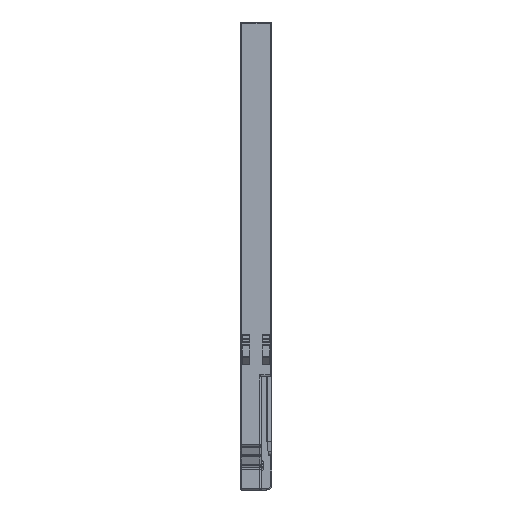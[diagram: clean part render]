
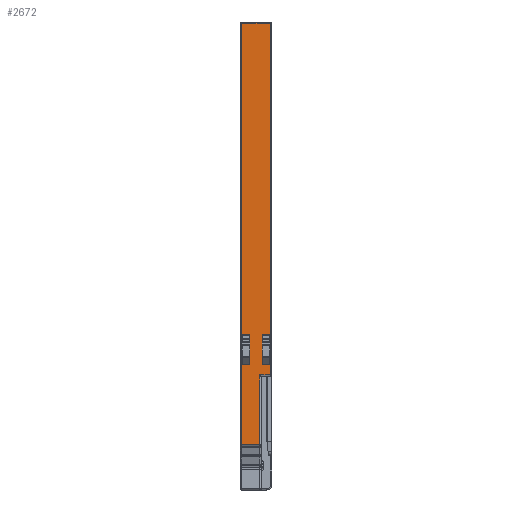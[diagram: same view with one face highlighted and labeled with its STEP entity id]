
A CAD part, left-side view. The second image highlights one B-rep face of the part: STEP entity #2672.
In plain terms, the highlighted planar face has unit normal (-1, 0, 0).
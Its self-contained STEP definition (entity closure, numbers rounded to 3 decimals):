
#26 = VERTEX_POINT ( 'NONE', #1603 ) ;
#84 = VECTOR ( 'NONE', #3972, 1000. ) ;
#150 = ORIENTED_EDGE ( 'NONE', *, *, #10826, .F. ) ;
#355 = LINE ( 'NONE', #8765, #7757 ) ;
#501 = EDGE_CURVE ( 'NONE', #3998, #3356, #1024, .T. ) ;
#669 = DIRECTION ( 'NONE',  ( 0., 0., -1. ) ) ;
#715 = ORIENTED_EDGE ( 'NONE', *, *, #10643, .F. ) ;
#859 = LINE ( 'NONE', #1694, #6410 ) ;
#1024 = LINE ( 'NONE', #2959, #2056 ) ;
#1188 = DIRECTION ( 'NONE',  ( 0., 0., 1. ) ) ;
#1283 = FACE_BOUND ( 'NONE', #9458, .T. ) ;
#1285 = DIRECTION ( 'NONE',  ( 0., 1., 0. ) ) ;
#1389 = DIRECTION ( 'NONE',  ( 0., 0., 1. ) ) ;
#1532 = CARTESIAN_POINT ( 'NONE',  ( -52.5, 4., -51.2 ) ) ;
#1540 = LINE ( 'NONE', #4907, #3958 ) ;
#1603 = CARTESIAN_POINT ( 'NONE',  ( -52.5, 0.3, -51.2 ) ) ;
#1619 = VECTOR ( 'NONE', #9131, 1000. ) ;
#1694 = CARTESIAN_POINT ( 'NONE',  ( -52.5, 4., 35.2 ) ) ;
#1701 = AXIS2_PLACEMENT_3D ( 'NONE', #9846, #10450, #1389 ) ;
#1816 = EDGE_CURVE ( 'NONE', #26, #3810, #5427, .T. ) ;
#2056 = VECTOR ( 'NONE', #7887, 1000. ) ;
#2118 = CARTESIAN_POINT ( 'NONE',  ( -52.5, -0.25, -28.7 ) ) ;
#2379 = CARTESIAN_POINT ( 'NONE',  ( -52.5, -0.25, -34.7 ) ) ;
#2394 = VECTOR ( 'NONE', #5122, 1000. ) ;
#2431 = VERTEX_POINT ( 'NONE', #5152 ) ;
#2447 = ORIENTED_EDGE ( 'NONE', *, *, #8969, .F. ) ;
#2449 = CARTESIAN_POINT ( 'NONE',  ( -52.5, -0.25, -34.7 ) ) ;
#2672 = ADVANCED_FACE ( 'NONE', ( #1283, #2998, #8147 ), #4665, .T. ) ;
#2684 = VERTEX_POINT ( 'NONE', #2118 ) ;
#2845 = VECTOR ( 'NONE', #7028, 1000. ) ;
#2959 = CARTESIAN_POINT ( 'NONE',  ( -52.5, 2.35, -28.7 ) ) ;
#2998 = FACE_BOUND ( 'NONE', #5566, .T. ) ;
#3197 = CARTESIAN_POINT ( 'NONE',  ( -52.5, -1.75, -34.7 ) ) ;
#3284 = VERTEX_POINT ( 'NONE', #10116 ) ;
#3301 = DIRECTION ( 'NONE',  ( 0., 0., 1. ) ) ;
#3329 = ORIENTED_EDGE ( 'NONE', *, *, #8893, .F. ) ;
#3356 = VERTEX_POINT ( 'NONE', #6280 ) ;
#3460 = ORIENTED_EDGE ( 'NONE', *, *, #501, .F. ) ;
#3478 = ORIENTED_EDGE ( 'NONE', *, *, #9870, .F. ) ;
#3529 = ORIENTED_EDGE ( 'NONE', *, *, #10340, .T. ) ;
#3539 = EDGE_CURVE ( 'NONE', #2431, #3356, #1540, .T. ) ;
#3810 = VERTEX_POINT ( 'NONE', #6512 ) ;
#3945 = VECTOR ( 'NONE', #5716, 1000. ) ;
#3958 = VECTOR ( 'NONE', #7471, 1000. ) ;
#3972 = DIRECTION ( 'NONE',  ( 0., 1., 0. ) ) ;
#3991 = LINE ( 'NONE', #6613, #5534 ) ;
#3998 = VERTEX_POINT ( 'NONE', #8640 ) ;
#4011 = VECTOR ( 'NONE', #1188, 1000. ) ;
#4287 = VERTEX_POINT ( 'NONE', #3197 ) ;
#4661 = ORIENTED_EDGE ( 'NONE', *, *, #5448, .T. ) ;
#4665 = PLANE ( 'NONE',  #1701 ) ;
#4760 = EDGE_CURVE ( 'NONE', #6317, #3998, #10519, .T. ) ;
#4823 = VECTOR ( 'NONE', #7939, 1000. ) ;
#4887 = VERTEX_POINT ( 'NONE', #9815 ) ;
#4907 = CARTESIAN_POINT ( 'NONE',  ( -52.5, 3.85, -34.7 ) ) ;
#5098 = CARTESIAN_POINT ( 'NONE',  ( -52.5, -1.75, -28.7 ) ) ;
#5122 = DIRECTION ( 'NONE',  ( 0., 1., 0. ) ) ;
#5152 = CARTESIAN_POINT ( 'NONE',  ( -52.5, 3.85, -34.7 ) ) ;
#5175 = EDGE_CURVE ( 'NONE', #4287, #7264, #355, .T. ) ;
#5278 = CARTESIAN_POINT ( 'NONE',  ( -52.5, 2.35, -34.7 ) ) ;
#5426 = LINE ( 'NONE', #8768, #4823 ) ;
#5427 = LINE ( 'NONE', #7998, #4011 ) ;
#5448 = EDGE_CURVE ( 'NONE', #7264, #2684, #6792, .T. ) ;
#5534 = VECTOR ( 'NONE', #669, 1000. ) ;
#5566 = EDGE_LOOP ( 'NONE', ( #10115, #3460, #9974, #9020 ) ) ;
#5716 = DIRECTION ( 'NONE',  ( 0., 1., 0. ) ) ;
#5764 = ORIENTED_EDGE ( 'NONE', *, *, #5175, .T. ) ;
#5824 = CARTESIAN_POINT ( 'NONE',  ( -52.5, -1.75, -34.7 ) ) ;
#5861 = VERTEX_POINT ( 'NONE', #1532 ) ;
#5870 = DIRECTION ( 'NONE',  ( 0., 0., -1. ) ) ;
#5967 = DIRECTION ( 'NONE',  ( 0., 1., 0. ) ) ;
#6071 = VECTOR ( 'NONE', #3301, 1000. ) ;
#6280 = CARTESIAN_POINT ( 'NONE',  ( -52.5, 3.85, -28.7 ) ) ;
#6317 = VERTEX_POINT ( 'NONE', #10731 ) ;
#6340 = CARTESIAN_POINT ( 'NONE',  ( -52.5, -1.9, 35.2 ) ) ;
#6393 = VECTOR ( 'NONE', #5967, 1000. ) ;
#6410 = VECTOR ( 'NONE', #5870, 1000. ) ;
#6512 = CARTESIAN_POINT ( 'NONE',  ( -52.5, 0.3, -36.9 ) ) ;
#6613 = CARTESIAN_POINT ( 'NONE',  ( -52.5, -1.9, 35.2 ) ) ;
#6792 = LINE ( 'NONE', #2449, #1619 ) ;
#6984 = EDGE_CURVE ( 'NONE', #6317, #2431, #7146, .T. ) ;
#7028 = DIRECTION ( 'NONE',  ( 0., 0., 1. ) ) ;
#7146 = LINE ( 'NONE', #10479, #3945 ) ;
#7264 = VERTEX_POINT ( 'NONE', #2379 ) ;
#7408 = LINE ( 'NONE', #5824, #6071 ) ;
#7471 = DIRECTION ( 'NONE',  ( 0., 0., 1. ) ) ;
#7571 = ORIENTED_EDGE ( 'NONE', *, *, #1816, .T. ) ;
#7664 = LINE ( 'NONE', #5098, #6393 ) ;
#7682 = VERTEX_POINT ( 'NONE', #8020 ) ;
#7711 = EDGE_CURVE ( 'NONE', #9760, #3284, #9773, .T. ) ;
#7752 = ORIENTED_EDGE ( 'NONE', *, *, #7711, .T. ) ;
#7757 = VECTOR ( 'NONE', #1285, 1000. ) ;
#7887 = DIRECTION ( 'NONE',  ( 0., 1., 0. ) ) ;
#7939 = DIRECTION ( 'NONE',  ( 0., 1., 0. ) ) ;
#7998 = CARTESIAN_POINT ( 'NONE',  ( -52.5, 0.3, -51.2 ) ) ;
#8020 = CARTESIAN_POINT ( 'NONE',  ( -52.5, -1.9, -36.9 ) ) ;
#8147 = FACE_OUTER_BOUND ( 'NONE', #10626, .T. ) ;
#8640 = CARTESIAN_POINT ( 'NONE',  ( -52.5, 2.35, -28.7 ) ) ;
#8765 = CARTESIAN_POINT ( 'NONE',  ( -52.5, -1.75, -34.7 ) ) ;
#8768 = CARTESIAN_POINT ( 'NONE',  ( -52.5, 0.3, -51.2 ) ) ;
#8893 = EDGE_CURVE ( 'NONE', #4287, #4887, #7408, .T. ) ;
#8969 = EDGE_CURVE ( 'NONE', #7682, #3810, #10814, .T. ) ;
#9020 = ORIENTED_EDGE ( 'NONE', *, *, #6984, .T. ) ;
#9131 = DIRECTION ( 'NONE',  ( 0., 0., 1. ) ) ;
#9458 = EDGE_LOOP ( 'NONE', ( #3329, #5764, #4661, #150 ) ) ;
#9760 = VERTEX_POINT ( 'NONE', #6340 ) ;
#9773 = LINE ( 'NONE', #10579, #84 ) ;
#9815 = CARTESIAN_POINT ( 'NONE',  ( -52.5, -1.75, -28.7 ) ) ;
#9846 = CARTESIAN_POINT ( 'NONE',  ( -52.5, 0., -35.5 ) ) ;
#9870 = EDGE_CURVE ( 'NONE', #9760, #7682, #3991, .T. ) ;
#9936 = CARTESIAN_POINT ( 'NONE',  ( -52.5, -1.9, -36.9 ) ) ;
#9974 = ORIENTED_EDGE ( 'NONE', *, *, #4760, .F. ) ;
#10115 = ORIENTED_EDGE ( 'NONE', *, *, #3539, .T. ) ;
#10116 = CARTESIAN_POINT ( 'NONE',  ( -52.5, 4., 35.2 ) ) ;
#10340 = EDGE_CURVE ( 'NONE', #3284, #5861, #859, .T. ) ;
#10450 = DIRECTION ( 'NONE',  ( -1., 0., 0. ) ) ;
#10479 = CARTESIAN_POINT ( 'NONE',  ( -52.5, 2.35, -34.7 ) ) ;
#10519 = LINE ( 'NONE', #5278, #2845 ) ;
#10579 = CARTESIAN_POINT ( 'NONE',  ( -52.5, -1.9, 35.2 ) ) ;
#10626 = EDGE_LOOP ( 'NONE', ( #3478, #7752, #3529, #715, #7571, #2447 ) ) ;
#10643 = EDGE_CURVE ( 'NONE', #26, #5861, #5426, .T. ) ;
#10731 = CARTESIAN_POINT ( 'NONE',  ( -52.5, 2.35, -34.7 ) ) ;
#10814 = LINE ( 'NONE', #9936, #2394 ) ;
#10826 = EDGE_CURVE ( 'NONE', #4887, #2684, #7664, .T. ) ;
